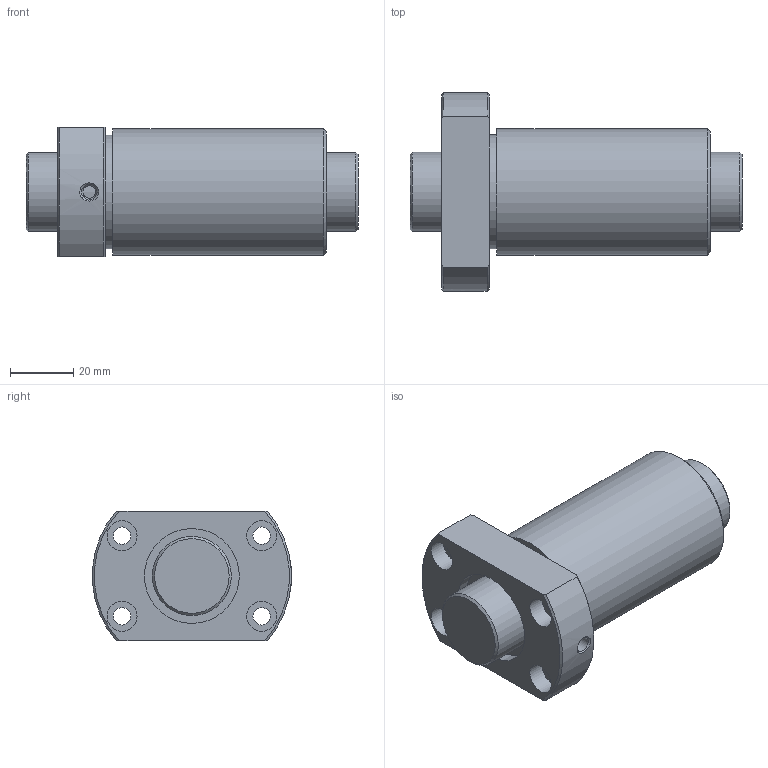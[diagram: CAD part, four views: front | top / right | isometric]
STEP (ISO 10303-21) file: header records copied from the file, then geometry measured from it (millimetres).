
FILE_DESCRIPTION(/* description */ ('STEP AP203'),/* implementation_level */ '2;1');
FILE_NAME(/* name */ 'DIK2510-4RRG0+105LC0_000',/* time_stamp */ '2025-01-13T09:53:46+01:00',/* author */ ('License CC BY-ND 4.0'),/* organization */ ('CADENAS'),/* preprocessor_version */ 'ST-DEVELOPER v19.3',/* originating_system */ 'PARTsolutions',/* authorisation */ ' ');
FILE_SCHEMA (('CONFIG_CONTROL_DESIGN'));
Length unit declared in the file: millimetre
Products named in the file (3): DIK2510-4RRG0+105LC0_000; DIK 2510-4RR010500 Shaft; DIK 2510-4RR Nut
Assembly tree (2 placements, depth 2):
  DIK2510-4RRG0+105LC0_000
    DIK 2510-4RR010500 Shaft
    DIK 2510-4RR Nut
Bounding box: 105 x 62.9 x 41 mm (x, y, z)
Volume: 128388.9 mm3; surface area: 32983.5 mm2
Topology: 2 solids, 2 shells, 41 faces, 83 edges, 54 vertices
Faces by surface type: cylinder 18, plane 14, cone 9
Full cylindrical faces by diameter (mm): 4 x1, 4.917 x1, 5.5 x4, 9.5 x4, 25 x2, 30 x2, 36 x1, 40 x1
Entity records: 1087 total; most frequent: CARTESIAN_POINT 200, DIRECTION 180, ORIENTED_EDGE 120, AXIS2_PLACEMENT_3D 86, EDGE_LOOP 82, FACE_BOUND 82, EDGE_CURVE 60, VERTEX_POINT 52
